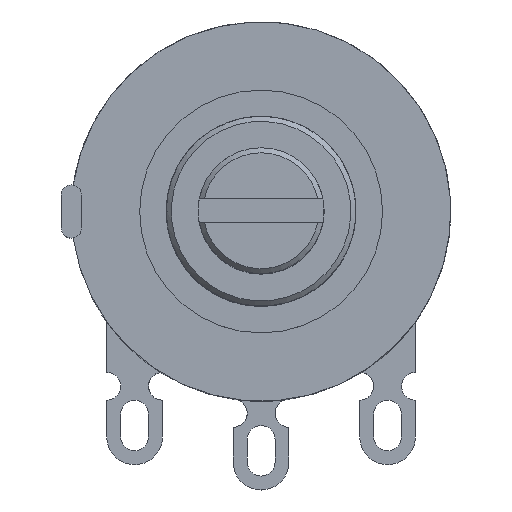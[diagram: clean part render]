
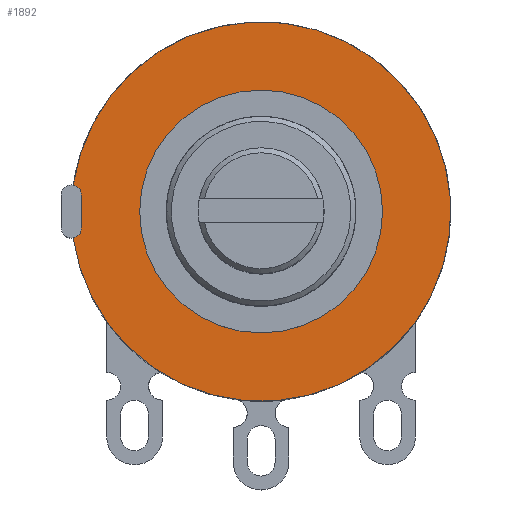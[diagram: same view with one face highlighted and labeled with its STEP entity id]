
A CAD part, top view. The second image highlights one B-rep face of the part: STEP entity #1892.
In plain terms, the highlighted planar face has unit normal (0, 0, 1).
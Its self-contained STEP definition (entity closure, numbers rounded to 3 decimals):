
#926=CARTESIAN_POINT('',(-9.432,1.325,0.0));
#927=VERTEX_POINT('',#926);
#928=CARTESIAN_POINT('',(-9.432,-1.325,0.0));
#929=VERTEX_POINT('',#928);
#930=CARTESIAN_POINT('',(0.0,0.0,0.0));
#931=DIRECTION('',(0.0,0.0,-1.0));
#932=DIRECTION('',(1.0,0.0,0.0));
#933=AXIS2_PLACEMENT_3D('',#930,#931,#932);
#934=CIRCLE('',#933,9.525);
#935=EDGE_CURVE('',#927,#929,#934,.T.);
#1834=CARTESIAN_POINT('',(0.0,-6.096,0.0));
#1835=VERTEX_POINT('',#1834);
#1836=CARTESIAN_POINT('',(0.,0.0,0.0));
#1837=DIRECTION('',(0.0,0.0,1.0));
#1838=DIRECTION('',(0.0,1.0,0.0));
#1839=AXIS2_PLACEMENT_3D('',#1836,#1837,#1838);
#1840=CIRCLE('',#1839,6.096);
#1841=EDGE_CURVE('',#1835,#1835,#1840,.T.);
#1857=CARTESIAN_POINT('',(0.0,0.0,0.0));
#1858=DIRECTION('',(0.0,0.0,1.0));
#1859=DIRECTION('',(1.0,0.0,0.0));
#1860=AXIS2_PLACEMENT_3D('',#1857,#1858,#1859);
#1861=PLANE('',#1860);
#1862=ORIENTED_EDGE('',*,*,#935,.F.);
#1863=CARTESIAN_POINT('',(-9.017,0.826,0.0));
#1864=VERTEX_POINT('',#1863);
#1865=CARTESIAN_POINT('',(-9.525,0.826,0.0));
#1866=DIRECTION('',(0.0,0.0,1.0));
#1867=DIRECTION('',(1.0,0.0,0.0));
#1868=AXIS2_PLACEMENT_3D('',#1865,#1866,#1867);
#1869=CIRCLE('',#1868,0.508);
#1870=EDGE_CURVE('',#1864,#927,#1869,.T.);
#1871=ORIENTED_EDGE('',*,*,#1870,.F.);
#1872=CARTESIAN_POINT('',(-9.017,-0.826,0.0));
#1873=VERTEX_POINT('',#1872);
#1874=CARTESIAN_POINT('',(-9.017,-0.826,0.0));
#1875=DIRECTION('',(0.0,1.0,0.0));
#1876=VECTOR('',#1875,1.651);
#1877=LINE('',#1874,#1876);
#1878=EDGE_CURVE('',#1873,#1864,#1877,.T.);
#1879=ORIENTED_EDGE('',*,*,#1878,.F.);
#1880=CARTESIAN_POINT('',(-9.525,-0.826,0.0));
#1881=DIRECTION('',(0.0,0.0,1.0));
#1882=DIRECTION('',(0.182,-0.983,0.0));
#1883=AXIS2_PLACEMENT_3D('',#1880,#1881,#1882);
#1884=CIRCLE('',#1883,0.508);
#1885=EDGE_CURVE('',#929,#1873,#1884,.T.);
#1886=ORIENTED_EDGE('',*,*,#1885,.F.);
#1887=EDGE_LOOP('',(#1862,#1871,#1879,#1886));
#1888=FACE_OUTER_BOUND('',#1887,.T.);
#1889=ORIENTED_EDGE('',*,*,#1841,.F.);
#1890=EDGE_LOOP('',(#1889));
#1891=FACE_BOUND('',#1890,.T.);
#1892=ADVANCED_FACE('',(#1888,#1891),#1861,.T.);
